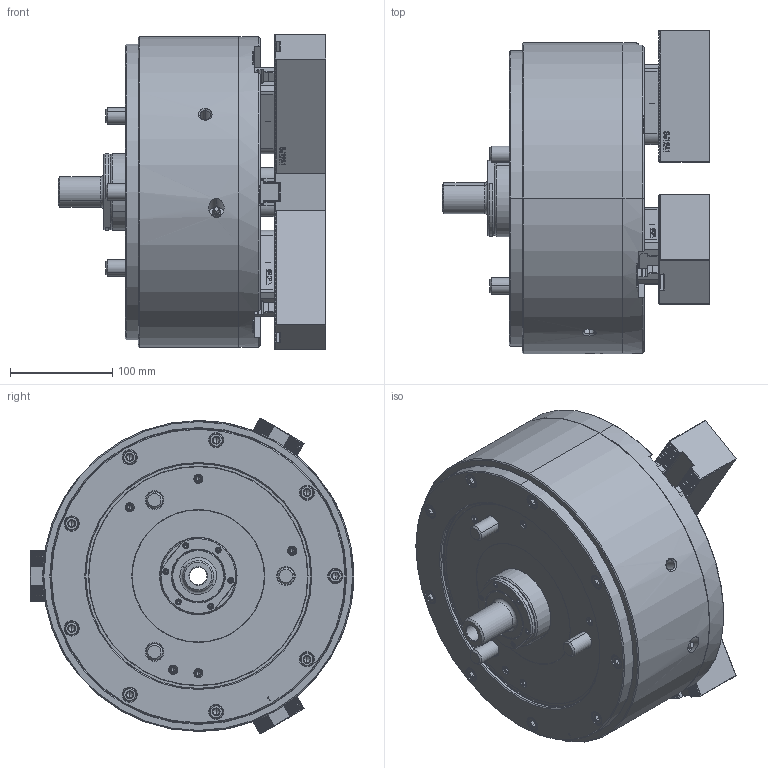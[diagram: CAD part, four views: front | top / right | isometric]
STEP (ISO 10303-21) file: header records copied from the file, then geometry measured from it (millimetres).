
FILE_DESCRIPTION (( 'STEP AP214' ), '1' );
FILE_NAME ('DL212_CL_ID.STEP', '2022-09-08T04:56:16', ( '' ), ( '' ), 'SwSTEP 2.0', 'SolidWorks 2020', '' );
FILE_SCHEMA (( 'AUTOMOTIVE_DESIGN' ));
Length unit declared in the file: millimetre
Products named in the file (5): 61P458879; 結合DLD212_CL_ID^DL212; 0030114040; DL212_CL_ID; 61P851659
Assembly tree (13 placements, depth 2):
  DL212_CL_ID
    61P851659  x3
    61P458879  x3
    0030114040  x6
    結合DLD212_CL_ID^DL212
Bounding box: 261.8 x 316.26 x 308.91 mm (x, y, z)
Volume: 10126763.1 mm3; surface area: 600125.2 mm2
Topology: 13 solids, 60 shells, 6734 faces, 18524 edges, 12043 vertices
Faces by surface type: plane 4397, cylinder 888, cone 764, bspline 663, torus 22
Entity records: 186908 total; most frequent: CARTESIAN_POINT 61448, ORIENTED_EDGE 28184, DIRECTION 22430, EDGE_CURVE 14092, LINE 9762, VECTOR 9762, VERTEX_POINT 9232, AXIS2_PLACEMENT_3D 6334
